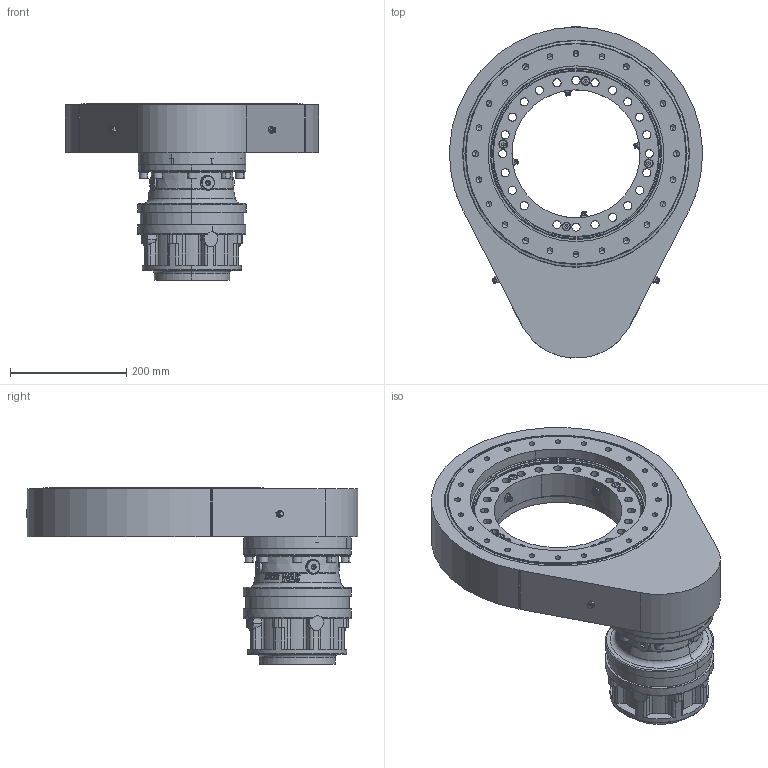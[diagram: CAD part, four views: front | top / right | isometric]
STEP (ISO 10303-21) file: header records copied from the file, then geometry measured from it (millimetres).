
FILE_DESCRIPTION((''),'2;1');
FILE_NAME('RGS20300_CUS1','2025-04-10T14:44:28',('cobklu0'),('LIEBHERR'),'CREO PARAMETRIC BY PTC INC, 2024133','CREO PARAMETRIC BY PTC INC, 2024133','');
FILE_SCHEMA(('AP242_MANAGED_MODEL_BASED_3D_ENGINEERING_MIM_LF { 1 0 10303 442 1 1 4 }'));
Length unit declared in the file: millimetre
Products named in the file (1): RGS20300_CUS1
Bounding box: 434.59 x 570.13 x 303.5 mm (x, y, z)
Volume: 15165487.3 mm3; surface area: 776883.6 mm2
Topology: 1 solids, 23 shells, 1196 faces, 2955 edges, 1864 vertices
Faces by surface type: cylinder 495, plane 407, cone 221, torus 73
Entity records: 54424 total; most frequent: CARTESIAN_POINT 9099, DIRECTION 6027, ORIENTED_EDGE 5730, PRESENTATION_STYLE_ASSIGNMENT 4062, STYLED_ITEM 2866, CURVE_STYLE 2865, EDGE_CURVE 2865, AXIS2_PLACEMENT_3D 2417
